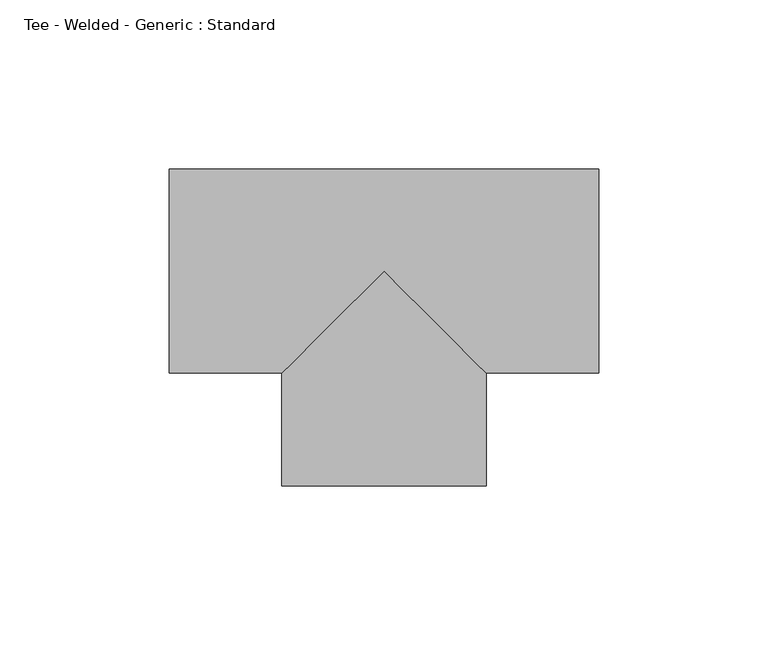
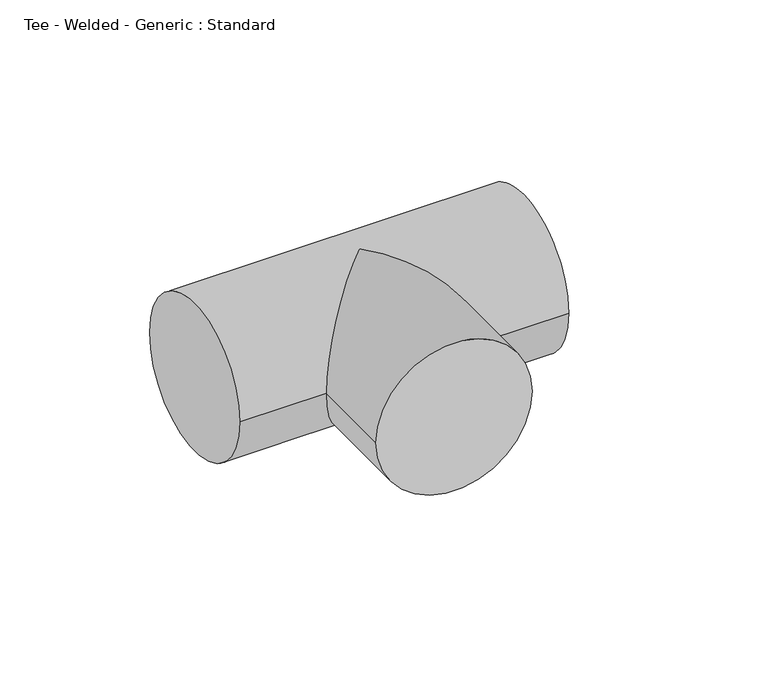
"""IFC4 building model written with IfcOpenShell, lengths in millimetres: pipe fitting geometry, Tee - Welded - Generic : Standard."""

from ifc_helpers import new_model, si_unit, frame, origin, place, context, project, spatial, circle_curve, ellipse_curve, source, transform, mapped, element, save
from ifc_brep_helpers import plane_surface, cylinder_surface, advanced_brep


def tee_welded_generic_standard_65c37840(model_context):
    return source(origin(), model_context, "Body", "AdvancedBrep", [
        advanced_brep(
        [(-63.5, -30.1625, 0.0), (-63.5, 30.1625, 0.0), (63.5, -30.1625, 0.0), (63.5, 30.1625, 0.0), (-30.1656187, -30.1625, 0.0), (0.0, 0.0, 30.1625), (30.1593816, -30.1625, 0.0), (0.0, 0.0, -30.1625), (-30.1690653, -63.4968811, 0.0), (30.1559344, -63.5031182, 0.0)],
        [
            (0, 1, circle_curve(frame((-63.5, 0.0, 0.0), z_axis=(-1.0, 0.0, 0.0), x_axis=(0.0, 1.0, 0.0)), 30.1625)),
            (1, 0, circle_curve(frame((-63.5, 0.0, 0.0), z_axis=(-1.0, 0.0, 0.0), x_axis=(0.0, 1.0, 0.0)), 30.1625)),
            (2, 3, circle_curve(frame((63.5, 0.0, 0.0), z_axis=(1.0, 0.0, 0.0), x_axis=(0.0, 1.0, 0.0)), 30.1625)),
            (3, 2, circle_curve(frame((63.5, 0.0, 0.0), z_axis=(1.0, 0.0, 0.0), x_axis=(0.0, 1.0, 0.0)), 30.1625)),
            (0, 4),
            (4, 5, ellipse_curve(frame((0.0, 0.0, 0.0), z_axis=(-0.7070702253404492, 0.7071433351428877, 0.0), x_axis=(-0.7071433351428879, -0.7070702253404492, 0.0)), 42.6584219, 30.1625)),
            (5, 6, ellipse_curve(frame((0.0, 0.0, 0.0), z_axis=(0.7071433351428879, 0.7070702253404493, 0.0), x_axis=(-0.7070702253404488, 0.707143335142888, 0.0)), 42.6540116, 30.1625)),
            (6, 2),
            (3, 1),
            (6, 7, ellipse_curve(frame((0.0, 0.0, 0.0), z_axis=(0.7071433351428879, 0.7070702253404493, 0.0), x_axis=(-0.7070702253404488, 0.707143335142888, 0.0)), 42.6540116, 30.1625)),
            (7, 4, ellipse_curve(frame((0.0, 0.0, 0.0), z_axis=(-0.7070702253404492, 0.7071433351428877, 0.0), x_axis=(-0.7071433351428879, -0.7070702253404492, 0.0)), 42.6584219, 30.1625)),
            (8, 9, circle_curve(frame((-0.0065654, -63.4999997, 0.0), z_axis=(-0.00010339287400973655, -0.9999999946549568, 0.0), x_axis=(0.9999999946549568, -0.00010339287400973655, 0.0)), 30.1625)),
            (9, 8, circle_curve(frame((-0.0065654, -63.4999997, 0.0), z_axis=(-0.00010339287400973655, -0.9999999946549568, 0.0), x_axis=(0.9999999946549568, -0.00010339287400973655, 0.0)), 30.1625)),
            (9, 6),
            (4, 8),
        ],
        [
            plane_surface(frame((-63.5, 0.0, 0.0), z_axis=(-1.0, 0.0, 0.0), x_axis=(0.0, 0.0, 1.0))),
            plane_surface(frame((63.5, 0.0, 0.0), z_axis=(1.0, 0.0, 0.0), x_axis=(0.0, 0.0, 1.0))),
            cylinder_surface(frame((-63.5, 0.0, 0.0), z_axis=(-1.0, 0.0, 0.0), x_axis=(0.0, 1.0, 0.0)), 30.1625),
            plane_surface(frame((-0.0065654, -63.4999997, 0.0), z_axis=(-0.00010339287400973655, -0.9999999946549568, 0.0), x_axis=(0.0, 0.0, 1.0))),
            cylinder_surface(frame((0.0, 0.0, 0.0), z_axis=(0.00010339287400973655, 0.9999999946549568, 0.0), x_axis=(0.9999999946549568, -0.00010339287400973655, 0.0)), 30.1625),
        ],
        [
            (0, [[1, 2]]),
            (1, [[3, 4]]),
            (2, [[-1, 5, 6, 7, 8, -4, 9]]),
            (2, [[-2, -9, -3, -8, 10, 11, -5]]),
            (3, [[12, 13]]),
            (4, [[-13, 14, -7, -6, 15]]),
            (4, [[-12, -15, -11, -10, -14]]),
        ],
    ),
    ])


if __name__ == "__main__":
    model = new_model("IFC4")
    model_context = context("Model", 3, world=origin())
    ifc_project = project(units=[si_unit("LENGTHUNIT", "METRE", prefix="MILLI")], contexts=[model_context])
    site = spatial("IfcSite", under=ifc_project)
    building = spatial("IfcBuilding", under=site)
    placement = place(None, origin())
    tee_welded_generic_standard_shape = tee_welded_generic_standard_65c37840(model_context)
    element("IfcPipeFitting", 1, ObjectType="Tee - Welded - Generic : Standard", at=placement, inside=building, context=model_context, shape_type="MappedRepresentation", body=[
        mapped(tee_welded_generic_standard_shape, transform((0.0, 0.0, 0.0), x_axis=(1.0, 0.0, 0.0), y_axis=(0.0, 1.0, 0.0), z_axis=(0.0, 0.0, 1.0))),
    ])
    save(model, "model.ifc")
